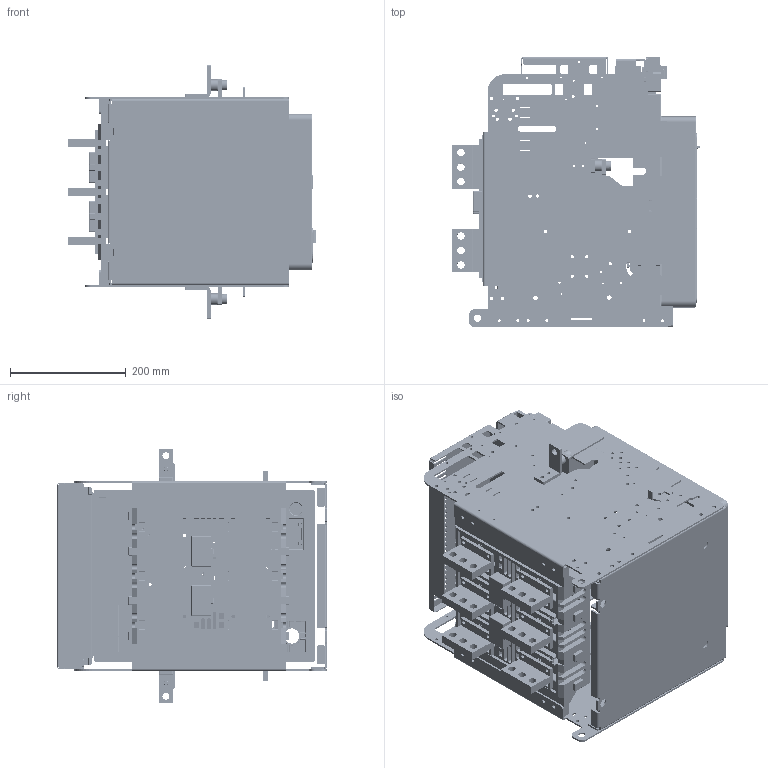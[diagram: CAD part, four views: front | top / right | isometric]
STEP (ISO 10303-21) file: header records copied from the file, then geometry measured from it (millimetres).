
FILE_DESCRIPTION((''),'2;1');
FILE_NAME('HG_05_A203V_ASM_ASM','2019-03-27T',('HHI'),(''),'PRO/ENGINEER BY PARAMETRIC TECHNOLOGY CORPORATION, 2012453','PRO/ENGINEER BY PARAMETRIC TECHNOLOGY CORPORATION, 2012453','');
FILE_SCHEMA(('CONFIG_CONTROL_DESIGN'));
Products named in the file (38): MANIFOLD_SOLID_BREP_10044; MANIFOLD_SOLID_BREP_10264; MAIN_SC-DR-FRAME_L_48_ASM; MAIN_SC_DR_BASE_203_11; MANIFOLD_SOLID_BREP_25959; MANIFOLD_SOLID_BREP_26179; MAIN_SC-DR-FRAME_R_47_ASM; SC_TERMINAL_MOLD203_11; SC_CO_JACK_DFC_203_12; MAIN_SC-CONTROL_JACK-CRADLE_41; ACB-HIAN-REDRAW-BODY_SC_CONTROL; TERMINAL_A20V_1; SC_CONTROL_JACK_32; SC_DR_DEVICE_COVER2_32; SC_DR_LOCK_PUSH_BUTTON_32; SC_MANUAL_POSITION_LOCK_32; SC-DR-INDICATOR_SAMPLE_34; DR_COVER_SAMPLE_ASM_33_ASM; MAIN_SC-OCR-COVER-U-DD-RE_33; MAIN_SC-OCR-PROTECTION-COVER-RE; MAIN_SC-OCR-LOWER-COVER-RE_32; OCR_COVER_SAMPLE_ASM_33_ASM; N_CHARGE_HANDLE_29; COVER203_ASSY_ASM_36_ASM; U_ARC_SHIELD_203_7; SC-FIX-BLOCK-L_3; FIX_BODY_EXTRA_3; FIX_BLOCK_CRADLE_6; BOLT_5; FIX_BODY_ASM_L_ASM_4_ASM; SC-FIX-BLOCK-R_6; SC-FIX-BLOCK-SUP-R_4; FIX_BODY_ASM_R_ASM_7_ASM; A203V_ASM_9_ASM; HG_FRONT_COVER_20; 4AT-06477S03; 4AT-06477S04; HG_05_A203V_ASM_ASM
Assembly tree (44 placements, depth 5):
  HG_05_A203V_ASM_ASM
    A203V_ASM_9_ASM
      MAIN_SC-DR-FRAME_L_48_ASM
        MANIFOLD_SOLID_BREP_10044
        MANIFOLD_SOLID_BREP_10264
      MAIN_SC_DR_BASE_203_11
      MAIN_SC-DR-FRAME_R_47_ASM
        MANIFOLD_SOLID_BREP_25959
        MANIFOLD_SOLID_BREP_26179
      SC_TERMINAL_MOLD203_11
      SC_CO_JACK_DFC_203_12
      MAIN_SC-CONTROL_JACK-CRADLE_41
      ACB-HIAN-REDRAW-BODY_SC_CONTROL
      TERMINAL_A20V_1  x6
      COVER203_ASSY_ASM_36_ASM
        SC_CONTROL_JACK_32
        DR_COVER_SAMPLE_ASM_33_ASM
          SC_DR_DEVICE_COVER2_32
          SC_DR_LOCK_PUSH_BUTTON_32
          SC_MANUAL_POSITION_LOCK_32
          SC-DR-INDICATOR_SAMPLE_34
        OCR_COVER_SAMPLE_ASM_33_ASM
          MAIN_SC-OCR-COVER-U-DD-RE_33
          MAIN_SC-OCR-PROTECTION-COVER-RE
          MAIN_SC-OCR-LOWER-COVER-RE_32
        N_CHARGE_HANDLE_29
      U_ARC_SHIELD_203_7
      FIX_BODY_ASM_L_ASM_4_ASM
        SC-FIX-BLOCK-L_3
        FIX_BODY_EXTRA_3
        FIX_BLOCK_CRADLE_6
        BOLT_5
      FIX_BODY_ASM_R_ASM_7_ASM
        SC-FIX-BLOCK-R_6
        SC-FIX-BLOCK-SUP-R_4
        FIX_BLOCK_CRADLE_6
        BOLT_5
    HG_FRONT_COVER_20
    4AT-06477S03
    4AT-06477S04
Bounding box: 428.03 x 466.35 x 440.1 mm (x, y, z)
Volume: 4438038.8 mm3; surface area: 2883071 mm2
Topology: 36 solids, 53 shells, 13772 faces, 40454 edges, 26510 vertices
Faces by surface type: plane 10512, cylinder 2629, torus 247, extrusion 175, sphere 110, bspline 50, cone 49
Entity records: 454194 total; most frequent: CARTESIAN_POINT 85988, ORIENTED_EDGE 79514, DIRECTION 71963, EDGE_CURVE 39888, VECTOR 33571, LINE 33396, VERTEX_POINT 26162, AXIS2_PLACEMENT_3D 19196
